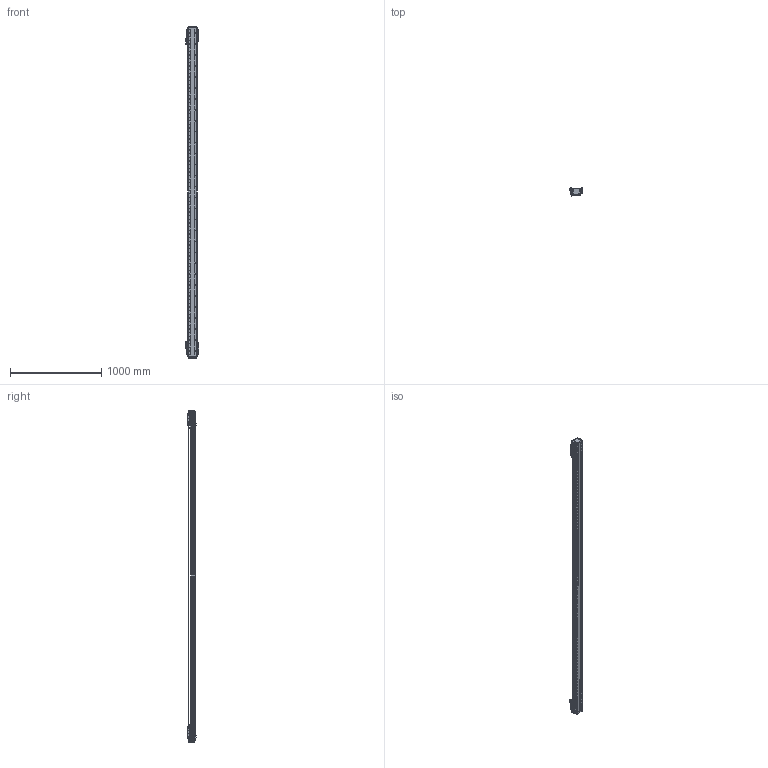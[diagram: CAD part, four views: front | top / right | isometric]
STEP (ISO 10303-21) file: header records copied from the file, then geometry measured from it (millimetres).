
FILE_DESCRIPTION (( 'STEP AP203' ), '1' );
FILE_NAME ('DA-B95-2-B15-T3260-C010-0.2 直线电机.STEP', '2023-05-06T06:47:25', ( '微软用户' ), ( '微软中国' ), 'SwSTEP 2.0', 'SolidWorks 2019', '' );
FILE_SCHEMA (( 'CONFIG_CONTROL_DESIGN' ));
Length unit declared in the file: millimetre
Products named in the file (34): B15 XD-U-02L ｴﾅﾕ､ｳﾟ^DA-A95-B15-T-C010-0.2-N ﾖｱﾏﾟｵ扈銈XD-U-02L; DA95-HXJ-00 缓冲橡胶^DA-A95-B15-T-C010-0.2-N 直线电机; IU-BU95-L 菁釱絳寢; 复件 DA95-B15-YB-A-00 压板A^66245-BU95-V 滚珠滑台; 复件 DKW-GYP-ZJ-00 中间光电感应片^DA-A95-B15-T-C010-0.2-N 直线电机; 复件 DA95-B15 钢带盖板^DA-A95-B15-T-C010-0.2-N 直线电机; 复件 DA95-DK-00 挡块^66245-BU95-V 滚珠滑台; 葩璃 DA95-B15-DP--B-00 菜えB^66245-BU95-V 幗紩賑怢; 葩璃 DA95-GT-T-00^IU-BU95-L 菁釱絳寢_DA95; 葩璃 PM-Y45^DA-A95-B15-T-C010-0.2-N 眻盄萇儂; 复件 DKW-KGZ-ZJ-00 中间光电开关支架^DA-A95-B15-T-C010-0.2-N 直线电机; 66245-BU95-V 幗紩賑怢; IU-BU95-L-00 菁釱_L3600; 复件 DA95-DB-00  挡板^66245-BU95-V 滚珠滑台; 葩璃 DA95-B15-DP-A-00 菜えA^66245-BU95-V 幗紩賑怢; 葩璃 BKM015-W060-C1-TP-DA-0.2^DA-A95-B15-T-C010-0.2-N 眻盄萇儂; 复件 DA95-MFP-01 密封片^66245-BU95-V 滚珠滑台; 复件 纯铜油杯 6x6mm^66245-BU95-V 滚珠滑台; PM-T45 光电开关^DA-A95-B15-T-C010-0.2-N 直线电机; 复件 DA95-B15-YB-B-00 压板B^66245-BU95-V 滚珠滑台; 葩璃 BKMA01-W060-TRL^DA-A95-B15-T-C010-0.2-N 眻盄萇儂; 复件 六角薄螺母 M3^DA-A95-B15-T-C010-0.2-N 直线电机_GB_FASTENER_NUT_STNAB M3-C; 复件 复件 18252-0001-002-00 钢带垫块^DA-A95-B15-T-C010-0.2-N 直线电机; DA-A95-GYP-00 光电感应片^DA-A95-B15-T-C010-0.2-N 直线电机; 66245-BU95-V-00 珨极趙賑雄怢啣; 复件 复件 18252-0001-003-00 钢带拉块^DA-A95-B15-T-C010-0.2-N 直线电机; LMDK-2-R001-V5-L02-C1-F00，0.2M 读数头^DA-A95-B15-T-C010-0.2-N 直线电机_DMA-010-0.2; 复件 DA95-HK-GT-00 滑块钢轨^66245-BU95-V-00 一体化滑动台板; 复件 复件 18252-0001-004-00 钢带端盖^DA-A95-B15-T-C010-0.2-N 直线电机; 复件 66245-BU95-HT-V-01 滑动台板^66245-BU95-V-00 一体化滑动台板; 复件 DKW-HXJ-JY-00 缓冲橡胶^DA-A95-B15-T-C010-0.2-N 直线电机; DA-B95-2-B15-T3260-C010-0.2 眻盄萇儂
Assembly tree (80 placements, depth 4):
  DA-B95-2-B15-T3260-C010-0.2 眻盄萇儂
    IU-BU95-L 菁釱絳寢
      IU-BU95-L-00 菁釱_L3600
      葩璃 DA95-GT-T-00^IU-BU95-L 菁釱絳寢_DA95  x2
    66245-BU95-V 幗紩賑怢
      66245-BU95-V-00 珨极趙賑雄怢啣
        复件 66245-BU95-HT-V-01 滑动台板^66245-BU95-V-00 一体化滑动台板
        复件 DA95-HK-GT-00 滑块钢轨^66245-BU95-V-00 一体化滑动台板  x2
      葩璃 DA95-B15-DP-A-00 菜えA^66245-BU95-V 幗紩賑怢
      复件 DA95-B15-YB-A-00 压板A^66245-BU95-V 滚珠滑台
      复件 DA95-B15-YB-B-00 压板B^66245-BU95-V 滚珠滑台
      复件 DA95-DB-00  挡板^66245-BU95-V 滚珠滑台  x4
      复件 DA95-DK-00 挡块^66245-BU95-V 滚珠滑台  x2
      复件 DA95-MFP-01 密封片^66245-BU95-V 滚珠滑台  x4
      复件 纯铜油杯 6x6mm^66245-BU95-V 滚珠滑台  x2
      葩璃 DA95-B15-DP--B-00 菜えB^66245-BU95-V 幗紩賑怢
    66245-BU95-V 幗紩賑怢
      66245-BU95-V-00 珨极趙賑雄怢啣
        复件 66245-BU95-HT-V-01 滑动台板^66245-BU95-V-00 一体化滑动台板
        复件 DA95-HK-GT-00 滑块钢轨^66245-BU95-V-00 一体化滑动台板  x2
      葩璃 DA95-B15-DP-A-00 菜えA^66245-BU95-V 幗紩賑怢
      复件 DA95-B15-YB-A-00 压板A^66245-BU95-V 滚珠滑台
      复件 DA95-B15-YB-B-00 压板B^66245-BU95-V 滚珠滑台
      复件 DA95-DB-00  挡板^66245-BU95-V 滚珠滑台  x4
      复件 DA95-DK-00 挡块^66245-BU95-V 滚珠滑台  x2
      复件 DA95-MFP-01 密封片^66245-BU95-V 滚珠滑台  x4
      复件 纯铜油杯 6x6mm^66245-BU95-V 滚珠滑台  x2
      葩璃 DA95-B15-DP--B-00 菜えB^66245-BU95-V 幗紩賑怢
    DA-A95-GYP-00 光电感应片^DA-A95-B15-T-C010-0.2-N 直线电机  x2
    LMDK-2-R001-V5-L02-C1-F00，0.2M 读数头^DA-A95-B15-T-C010-0.2-N 直线电机_DMA-010-0.2  x2
    复件 DKW-KGZ-ZJ-00 中间光电开关支架^DA-A95-B15-T-C010-0.2-N 直线电机
    葩璃 PM-Y45^DA-A95-B15-T-C010-0.2-N 眻盄萇儂
    复件 DKW-GYP-ZJ-00 中间光电感应片^DA-A95-B15-T-C010-0.2-N 直线电机
    葩璃 BKM015-W060-C1-TP-DA-0.2^DA-A95-B15-T-C010-0.2-N 眻盄萇儂  x2
    复件 DKW-HXJ-JY-00 缓冲橡胶^DA-A95-B15-T-C010-0.2-N 直线电机  x2
    PM-T45 光电开关^DA-A95-B15-T-C010-0.2-N 直线电机  x4
    B15 XD-U-02L ｴﾅﾕ､ｳﾟ^DA-A95-B15-T-C010-0.2-N ﾖｱﾏﾟｵ扈銈XD-U-02L
    复件 复件 18252-0001-003-00 钢带拉块^DA-A95-B15-T-C010-0.2-N 直线电机  x2
    复件 复件 18252-0001-002-00 钢带垫块^DA-A95-B15-T-C010-0.2-N 直线电机  x2
    复件 复件 18252-0001-004-00 钢带端盖^DA-A95-B15-T-C010-0.2-N 直线电机  x2
    复件 DA95-B15 钢带盖板^DA-A95-B15-T-C010-0.2-N 直线电机
    DA95-HXJ-00 缓冲橡胶^DA-A95-B15-T-C010-0.2-N 直线电机  x4
    葩璃 BKMA01-W060-TRL^DA-A95-B15-T-C010-0.2-N 眻盄萇儂
    复件 六角薄螺母 M3^DA-A95-B15-T-C010-0.2-N 直线电机_GB_FASTENER_NUT_STNAB M3-C  x6
Bounding box: 145.4 x 90.2 x 3636 mm (x, y, z)
Volume: 11273827 mm3; surface area: 3779105.5 mm2
Topology: 75 solids, 93 shells, 4672 faces, 13564 edges, 8655 vertices
Faces by surface type: cylinder 2517, plane 1623, cone 464, torus 64, sphere 4
Entity records: 124398 total; most frequent: CARTESIAN_POINT 34468, ORIENTED_EDGE 18486, DIRECTION 17458, EDGE_CURVE 9243, AXIS2_PLACEMENT_3D 6693, VERTEX_POINT 6057, VECTOR 4072, LINE 4072
